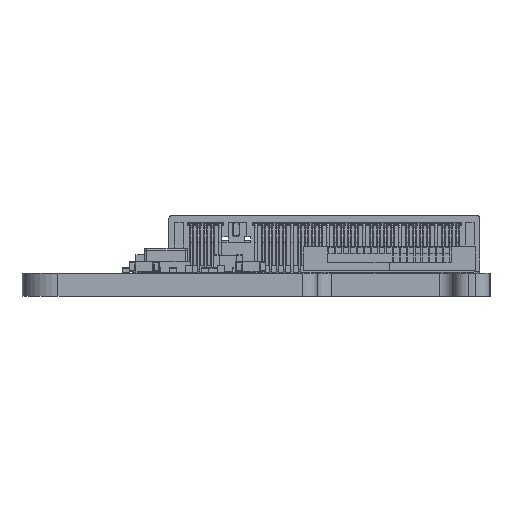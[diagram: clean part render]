
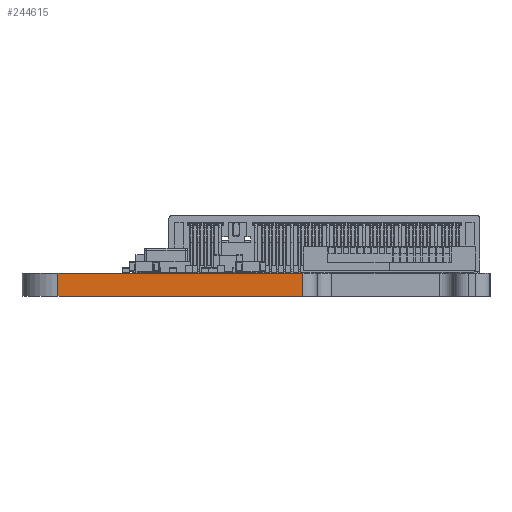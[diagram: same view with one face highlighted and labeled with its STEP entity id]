
A CAD part, left-side view. The second image highlights one B-rep face of the part: STEP entity #244615.
In plain terms, the highlighted planar face has unit normal (-1, 0, 0).
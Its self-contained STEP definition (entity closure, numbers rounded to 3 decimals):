
#243504 = VERTEX_POINT('',#243505);
#243505 = CARTESIAN_POINT('',(-3.,0.5,0.));
#243512 = EDGE_CURVE('',#243513,#243504,#243515,.T.);
#243513 = VERTEX_POINT('',#243514);
#243514 = CARTESIAN_POINT('',(-3.,-16.5,0.));
#243515 = LINE('',#243516,#243517);
#243516 = CARTESIAN_POINT('',(-3.,-16.5,0.));
#243517 = VECTOR('',#243518,1.);
#243518 = DIRECTION('',(0.,1.,0.));
#244046 = VERTEX_POINT('',#244047);
#244047 = CARTESIAN_POINT('',(-3.,0.5,1.6));
#244054 = EDGE_CURVE('',#244055,#244046,#244057,.T.);
#244055 = VERTEX_POINT('',#244056);
#244056 = CARTESIAN_POINT('',(-3.,-16.5,1.6));
#244057 = LINE('',#244058,#244059);
#244058 = CARTESIAN_POINT('',(-3.,-16.5,1.6));
#244059 = VECTOR('',#244060,1.);
#244060 = DIRECTION('',(0.,1.,0.));
#244585 = EDGE_CURVE('',#243504,#244046,#244586,.T.);
#244586 = LINE('',#244587,#244588);
#244587 = CARTESIAN_POINT('',(-3.,0.5,0.));
#244588 = VECTOR('',#244589,1.);
#244589 = DIRECTION('',(0.,0.,1.));
#244615 = ADVANCED_FACE('',(#244616),#244627,.T.);
#244616 = FACE_BOUND('',#244617,.T.);
#244617 = EDGE_LOOP('',(#244618,#244624,#244625,#244626));
#244618 = ORIENTED_EDGE('',*,*,#244619,.T.);
#244619 = EDGE_CURVE('',#243513,#244055,#244620,.T.);
#244620 = LINE('',#244621,#244622);
#244621 = CARTESIAN_POINT('',(-3.,-16.5,0.));
#244622 = VECTOR('',#244623,1.);
#244623 = DIRECTION('',(0.,0.,1.));
#244624 = ORIENTED_EDGE('',*,*,#244054,.T.);
#244625 = ORIENTED_EDGE('',*,*,#244585,.F.);
#244626 = ORIENTED_EDGE('',*,*,#243512,.F.);
#244627 = PLANE('',#244628);
#244628 = AXIS2_PLACEMENT_3D('',#244629,#244630,#244631);
#244629 = CARTESIAN_POINT('',(-3.,-16.5,0.));
#244630 = DIRECTION('',(-1.,0.,0.));
#244631 = DIRECTION('',(0.,1.,0.));
